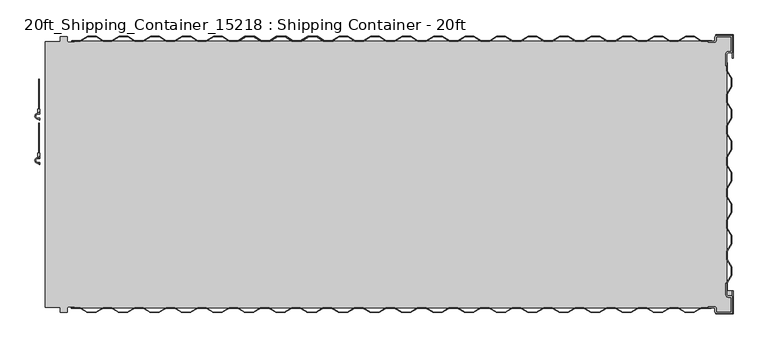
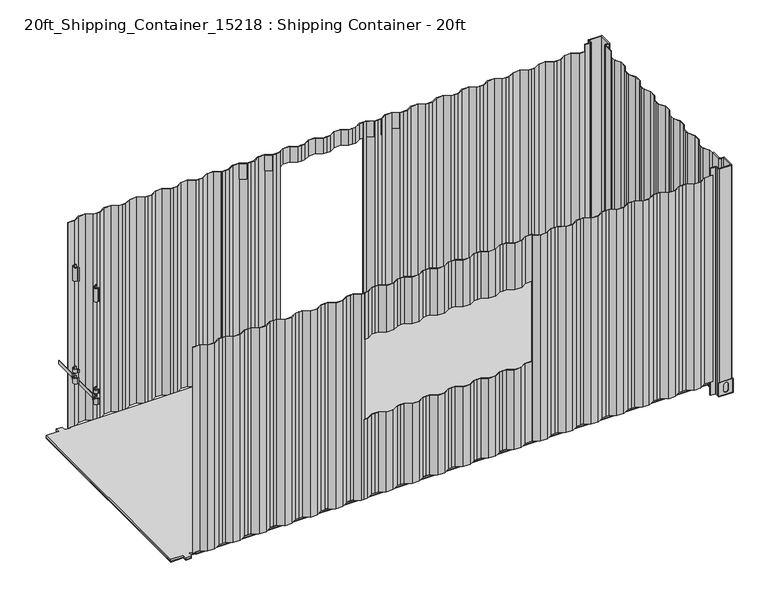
"""IFC4 building model written with IfcOpenShell, lengths in millimetres: proxy geometry, 20ft_Shipping_Container_15218 : Shipping Container - 20ft."""

from ifc_helpers import new_model, si_unit, point, frame, frame_2d, origin, origin_with_axes, place, context, project, spatial, polyline, circle_curve, trimmed, segment, composite_curve, outline, extrude, source, transform, mapped, element, save


def proxy_20ft_shipping_container_15218_shipping_container_20ft_9ec7a6ed(model_context):
    return source(origin(), model_context, "Body", "SweptSolid", [
        extrude(outline(polyline([(-4266.1748613, 1212.85), (-4190.7538505, 1212.85), (-4127.2538505, 1174.6953507), (-4089.1538505, 1174.6953507), (-4053.5938505, 1174.6953507), (-3990.0938505, 1212.85), (-3914.6728396, 1212.85), (-3851.1728396, 1174.6953507), (-3813.0728396, 1174.6953507), (-3777.5128396, 1174.6953507), (-3714.0128396, 1212.85), (-3638.5918288, 1212.85), (-3575.0918288, 1174.6953507), (-3536.9918288, 1174.6953507), (-3502.0668288, 1174.6953507), (-3498.8918288, 1171.5203507), (-3536.9918288, 1171.5203507), (-3575.9723342, 1171.5203507), (-3639.4723342, 1209.675), (-3713.1323342, 1209.675), (-3776.6323342, 1171.5203507), (-3813.0728396, 1171.5203507), (-3852.0533451, 1171.5203507), (-3915.5533451, 1209.675), (-3989.2133451, 1209.675), (-4052.7133451, 1171.5203507), (-4089.1538505, 1171.5203507), (-4128.1343559, 1171.5203507), (-4191.6343559, 1209.675), (-4265.2943559, 1209.675), (-4328.7943559, 1171.5203507), (-4330.4296018, 1174.2418569), (-4266.1748613, 1212.85)])), frame((0.0, 0.0, 161.8703507), z_axis=(0.0, 0.0, 1.0), x_axis=(1.0, 0.0, 0.0)), (0.0, 0.0, 1.0), 2352.7296493),
        extrude(outline(polyline([(-2543.4621629, 1212.85), (-2479.9621629, 1174.6953507), (-2441.8621629, 1174.6953507), (-2406.3021629, 1174.6953507), (-2342.8021629, 1212.85), (-2267.381152, 1212.85), (-2203.881152, 1174.6953507), (-2165.781152, 1174.6953507), (-2130.221152, 1174.6953507), (-2066.721152, 1212.85), (-1991.3001412, 1212.85), (-1927.8001412, 1174.6953507), (-1889.7001412, 1174.6953507), (-1854.1401412, 1174.6953507), (-1790.6401412, 1212.85), (-1715.2191303, 1212.85), (-1651.7191303, 1174.6953507), (-1613.6191303, 1174.6953507), (-1578.0591303, 1174.6953507), (-1514.5591303, 1212.85), (-1439.1381195, 1212.85), (-1375.6381195, 1174.6953507), (-1337.5381195, 1174.6953507), (-1301.9781195, 1174.6953507), (-1238.4781195, 1212.85), (-1236.8428736, 1210.1284938), (-1301.0976141, 1171.5203507), (-1337.5381195, 1171.5203507), (-1376.5186249, 1171.5203507), (-1440.0186249, 1209.675), (-1513.6786249, 1209.675), (-1577.1786249, 1171.5203507), (-1613.6191303, 1171.5203507), (-1652.5996358, 1171.5203507), (-1716.0996358, 1209.675), (-1789.7596358, 1209.675), (-1853.2596358, 1171.5203507), (-1889.7001412, 1171.5203507), (-1928.6806466, 1171.5203507), (-1992.1806466, 1209.675), (-2065.8406466, 1209.675), (-2129.3406466, 1171.5203507), (-2165.781152, 1171.5203507), (-2204.7616575, 1171.5203507), (-2268.2616575, 1209.675), (-2341.9216575, 1209.675), (-2405.4216575, 1171.5203507), (-2441.8621629, 1171.5203507), (-2480.8426683, 1171.5203507), (-2544.3426683, 1209.675), (-2582.8625, 1209.675), (-2582.8625, 1212.85), (-2543.4621629, 1212.85)])), frame((0.0, 0.0, 161.8703507), z_axis=(0.0, 0.0, 1.0), x_axis=(1.0, 0.0, 0.0)), (0.0, 0.0, 1.0), 2352.7296493),
        extrude(outline(polyline([(-2133.6, -1174.6953507), (-2209.8, -1174.6953507), (-2273.3, -1212.85), (-2348.6300591, -1212.85), (-2412.2210109, -1174.6407014), (-2450.3210109, -1174.6407014), (-2485.8810109, -1174.6407014), (-2549.3810109, -1212.7953507), (-2624.8020217, -1212.7953507), (-2688.3020217, -1174.6407014), (-2726.4020217, -1174.6407014), (-2761.9620217, -1174.6407014), (-2825.4620217, -1212.7953507), (-2900.8830326, -1212.7953507), (-2964.3830326, -1174.6407014), (-3002.4830326, -1174.6407014), (-3038.0430326, -1174.6407014), (-3101.5430326, -1212.7953507), (-3176.9640434, -1212.7953507), (-3240.4640434, -1174.6407014), (-3278.5640434, -1174.6407014), (-3314.1240434, -1174.6407014), (-3377.6240434, -1212.7953507), (-3453.0450543, -1212.7953507), (-3516.5450543, -1174.6407014), (-3554.6450543, -1174.6407014), (-3590.2050543, -1174.6407014), (-3653.7050543, -1212.7953507), (-3729.1260651, -1212.7953507), (-3792.6260651, -1174.6407014), (-3830.7260651, -1174.6407014), (-3866.2860651, -1174.6407014), (-3929.542773, -1212.649166), (-3966.6742932, -1212.649166), (-3966.6742932, -1209.6203507), (-3930.6665706, -1209.6203507), (-3867.1665706, -1171.4657014), (-3830.7260651, -1171.4657014), (-3791.7455597, -1171.4657014), (-3728.2455597, -1209.6203507), (-3654.5855597, -1209.6203507), (-3591.0855597, -1171.4657014), (-3554.6450543, -1171.4657014), (-3515.6645488, -1171.4657014), (-3452.1645488, -1209.6203507), (-3378.5045488, -1209.6203507), (-3315.0045488, -1171.4657014), (-3278.5640434, -1171.4657014), (-3239.583538, -1171.4657014), (-3176.083538, -1209.6203507), (-3102.423538, -1209.6203507), (-3038.923538, -1171.4657014), (-3002.4830326, -1171.4657014), (-2963.5025271, -1171.4657014), (-2900.0025271, -1209.6203507), (-2826.3425271, -1209.6203507), (-2762.8425271, -1171.4657014), (-2726.4020217, -1171.4657014), (-2687.4215163, -1171.4657014), (-2623.9215163, -1209.6203507), (-2550.2615163, -1209.6203507), (-2486.7615163, -1171.4657014), (-2450.3210109, -1171.4657014), (-2411.3405054, -1171.4657014), (-2347.7495537, -1209.675), (-2274.1805054, -1209.675), (-2210.6805054, -1171.5203507), (-2133.6, -1171.5203507), (-2133.6, -1174.6953507)])), frame((0.0, 0.0, 161.8703507), z_axis=(0.0, 0.0, 1.0), x_axis=(1.0, 0.0, 0.0)), (0.0, 0.0, 1.0), 911.225),
        extrude(outline(polyline([(-2131.173475, -1174.6953507), (-2207.373475, -1174.6953507), (-2270.873475, -1212.85), (-2346.2035342, -1212.85), (-2409.7944859, -1174.6407014), (-2447.8944859, -1174.6407014), (-2483.4544859, -1174.6407014), (-2546.9544859, -1212.7953507), (-2622.3754967, -1212.7953507), (-2685.8754967, -1174.6407014), (-2723.9754967, -1174.6407014), (-2759.5354967, -1174.6407014), (-2823.0354967, -1212.7953507), (-2898.4565076, -1212.7953507), (-2961.9565076, -1174.6407014), (-3000.0565076, -1174.6407014), (-3035.6165076, -1174.6407014), (-3099.1165076, -1212.7953507), (-3174.5375184, -1212.7953507), (-3238.0375184, -1174.6407014), (-3276.1375184, -1174.6407014), (-3311.6975184, -1174.6407014), (-3375.1975184, -1212.7953507), (-3450.6185293, -1212.7953507), (-3514.1185293, -1174.6407014), (-3552.2185293, -1174.6407014), (-3587.7785293, -1174.6407014), (-3651.2785293, -1212.7953507), (-3726.6995402, -1212.7953507), (-3790.1995402, -1174.6407014), (-3828.2995402, -1174.6407014), (-3863.8595402, -1174.6407014), (-3927.116248, -1212.649166), (-3964.2477682, -1212.649166), (-3964.2477682, -1209.6203507), (-3928.2400456, -1209.6203507), (-3864.7400456, -1171.4657014), (-3828.2995402, -1171.4657014), (-3789.3190347, -1171.4657014), (-3725.8190347, -1209.6203507), (-3652.1590347, -1209.6203507), (-3588.6590347, -1171.4657014), (-3552.2185293, -1171.4657014), (-3513.2380239, -1171.4657014), (-3449.7380239, -1209.6203507), (-3376.0780239, -1209.6203507), (-3312.5780239, -1171.4657014), (-3276.1375184, -1171.4657014), (-3237.157013, -1171.4657014), (-3173.657013, -1209.6203507), (-3099.997013, -1209.6203507), (-3036.497013, -1171.4657014), (-3000.0565076, -1171.4657014), (-2961.0760022, -1171.4657014), (-2897.5760022, -1209.6203507), (-2823.9160022, -1209.6203507), (-2760.4160022, -1171.4657014), (-2723.9754967, -1171.4657014), (-2684.9949913, -1171.4657014), (-2621.4949913, -1209.6203507), (-2547.8349913, -1209.6203507), (-2484.3349913, -1171.4657014), (-2447.8944859, -1171.4657014), (-2408.9139805, -1171.4657014), (-2345.3230287, -1209.675), (-2271.7539805, -1209.675), (-2208.2539805, -1171.5203507), (-2131.173475, -1171.5203507), (-2131.173475, -1174.6953507)])), frame((0.0, 0.0, 1987.4953507), z_axis=(0.0, 0.0, 1.0), x_axis=(1.0, 0.0, 0.0)), (0.0, 0.0, 1.0), 533.4546493),
        extrude(outline(polyline([(-2068.7968589, -1212.7953507), (-2132.2968589, -1174.6407014), (-2135.6757068, -1174.6407014), (-2135.6757068, -1171.4657014), (-2131.4163535, -1171.4657014), (-2067.9163535, -1209.6203507), (-1994.2563535, -1209.6203507), (-1930.7563535, -1171.4657014), (-1891.775848, -1171.4657014), (-1855.3353426, -1171.4657014), (-1791.8353426, -1209.6203507), (-1718.1753426, -1209.6203507), (-1654.6753426, -1171.4657014), (-1615.6948372, -1171.4657014), (-1579.2543318, -1171.4657014), (-1515.7543318, -1209.6203507), (-1442.0943318, -1209.6203507), (-1378.5943318, -1171.4657014), (-1339.6138263, -1171.4657014), (-1303.1733209, -1171.4657014), (-1239.6733209, -1209.6203507), (-1166.0133209, -1209.6203507), (-1102.5133209, -1171.4657014), (-1063.5328155, -1171.4657014), (-1027.09231, -1171.4657014), (-963.59231, -1209.6203507), (-889.93231, -1209.6203507), (-826.43231, -1171.4657014), (-787.4518046, -1171.4657014), (-751.0112992, -1171.4657014), (-687.5112992, -1209.6203507), (-613.8512992, -1209.6203507), (-550.3512992, -1171.4657014), (-511.3707938, -1171.4657014), (-474.9302883, -1171.4657014), (-411.4302883, -1209.6203507), (-337.7702883, -1209.6203507), (-274.2702883, -1171.4657014), (-184.4897829, -1171.4657014), (-184.4897829, -1174.6407014), (-273.3897829, -1174.6407014), (-336.8897829, -1212.7953507), (-412.3107938, -1212.7953507), (-475.8107938, -1174.6407014), (-511.3707938, -1174.6407014), (-549.4707938, -1174.6407014), (-612.9707938, -1212.7953507), (-688.3918046, -1212.7953507), (-751.8918046, -1174.6407014), (-787.4518046, -1174.6407014), (-825.5518046, -1174.6407014), (-889.0518046, -1212.7953507), (-964.4728155, -1212.7953507), (-1027.9728155, -1174.6407014), (-1063.5328155, -1174.6407014), (-1101.6328155, -1174.6407014), (-1165.1328155, -1212.7953507), (-1240.5538263, -1212.7953507), (-1304.0538263, -1174.6407014), (-1339.6138263, -1174.6407014), (-1377.7138263, -1174.6407014), (-1441.2138263, -1212.7953507), (-1516.6348372, -1212.7953507), (-1580.1348372, -1174.6407014), (-1615.6948372, -1174.6407014), (-1653.7948372, -1174.6407014), (-1717.2948372, -1212.7953507), (-1792.715848, -1212.7953507), (-1856.215848, -1174.6407014), (-1891.775848, -1174.6407014), (-1929.875848, -1174.6407014), (-1993.375848, -1212.7953507), (-2068.7968589, -1212.7953507)])), frame((0.0, 0.0, 161.8703507), z_axis=(0.0, 0.0, 1.0), x_axis=(1.0, 0.0, 0.0)), (0.0, 0.0, 1.0), 2352.7296493),
        extrude(outline(polyline([(-5797.55, -1174.6953507), (-5797.55, -1171.5203507), (-5720.4694946, -1171.5203507), (-5656.9694946, -1209.675), (-5583.4004463, -1209.675), (-5519.8094946, -1171.4657014), (-5480.8289891, -1171.4657014), (-5444.3884837, -1171.4657014), (-5380.8884837, -1209.6203507), (-5307.2284837, -1209.6203507), (-5243.7284837, -1171.4657014), (-5204.7479783, -1171.4657014), (-5168.3074729, -1171.4657014), (-5104.8074729, -1209.6203507), (-5031.1474729, -1209.6203507), (-4967.6474729, -1171.4657014), (-4928.6669674, -1171.4657014), (-4892.226462, -1171.4657014), (-4828.726462, -1209.6203507), (-4755.066462, -1209.6203507), (-4691.566462, -1171.4657014), (-4652.5859566, -1171.4657014), (-4616.1454512, -1171.4657014), (-4552.6454512, -1209.6203507), (-4478.9854512, -1209.6203507), (-4415.4854512, -1171.4657014), (-4376.5049457, -1171.4657014), (-4340.0644403, -1171.4657014), (-4276.5644403, -1209.6203507), (-4202.9044403, -1209.6203507), (-4139.4044403, -1171.4657014), (-4100.4239349, -1171.4657014), (-4063.9834294, -1171.4657014), (-4000.4834294, -1209.6203507), (-3964.4757068, -1209.6203507), (-3964.4757068, -1212.7953507), (-4001.3639349, -1212.7953507), (-4064.8639349, -1174.6407014), (-4100.4239349, -1174.6407014), (-4138.5239349, -1174.6407014), (-4202.0239349, -1212.7953507), (-4277.4449457, -1212.7953507), (-4340.9449457, -1174.6407014), (-4376.5049457, -1174.6407014), (-4414.6049457, -1174.6407014), (-4478.1049457, -1212.7953507), (-4553.5259566, -1212.7953507), (-4617.0259566, -1174.6407014), (-4652.5859566, -1174.6407014), (-4690.6859566, -1174.6407014), (-4754.1859566, -1212.7953507), (-4829.6069674, -1212.7953507), (-4893.1069674, -1174.6407014), (-4928.6669674, -1174.6407014), (-4966.7669674, -1174.6407014), (-5030.2669674, -1212.7953507), (-5105.6879783, -1212.7953507), (-5169.1879783, -1174.6407014), (-5204.7479783, -1174.6407014), (-5242.8479783, -1174.6407014), (-5306.3479783, -1212.7953507), (-5381.7689891, -1212.7953507), (-5445.2689891, -1174.6407014), (-5480.8289891, -1174.6407014), (-5518.9289891, -1174.6407014), (-5582.5199409, -1212.85), (-5657.85, -1212.85), (-5721.35, -1174.6953507), (-5797.55, -1174.6953507)])), frame((0.0, 0.0, 161.8703507), z_axis=(0.0, 0.0, 1.0), x_axis=(1.0, 0.0, 0.0)), (0.0, 0.0, 1.0), 2352.7296493),
        extrude(outline(polyline([(-2129.7004794, 1175.1121454), (-2129.7004794, 1171.9371454), (-2206.7809848, 1171.9371454), (-2270.2809848, 1210.0917947), (-2343.8500331, 1210.0917947), (-2407.4409848, 1171.8824961), (-2446.4214902, 1171.8824961), (-2482.8619957, 1171.8824961), (-2546.3619957, 1210.0371454), (-2620.0219957, 1210.0371454), (-2683.5219957, 1171.8824961), (-2722.5025011, 1171.8824961), (-2758.9430065, 1171.8824961), (-2822.4430065, 1210.0371454), (-2896.1030065, 1210.0371454), (-2959.6030065, 1171.8824961), (-2998.5835119, 1171.8824961), (-3035.0240174, 1171.8824961), (-3098.5240174, 1210.0371454), (-3172.1840174, 1210.0371454), (-3235.6840174, 1171.8824961), (-3274.6645228, 1171.8824961), (-3311.1050282, 1171.8824961), (-3374.6050282, 1210.0371454), (-3448.2650282, 1210.0371454), (-3511.7650282, 1171.8824961), (-3550.7455336, 1171.8824961), (-3587.1860391, 1171.8824961), (-3650.6860391, 1210.0371454), (-3724.3460391, 1210.0371454), (-3787.8460391, 1171.8824961), (-3826.8265445, 1171.8824961), (-3863.2670499, 1171.8824961), (-3926.7670499, 1210.0371454), (-3962.7747725, 1210.0371454), (-3962.7747725, 1213.0659608), (-3925.6432524, 1213.0659608), (-3862.3865445, 1175.0574961), (-3826.8265445, 1175.0574961), (-3788.7265445, 1175.0574961), (-3725.2265445, 1213.2121454), (-3649.8055336, 1213.2121454), (-3586.3055336, 1175.0574961), (-3550.7455336, 1175.0574961), (-3512.6455336, 1175.0574961), (-3449.1455336, 1213.2121454), (-3373.7245228, 1213.2121454), (-3310.2245228, 1175.0574961), (-3274.6645228, 1175.0574961), (-3236.5645228, 1175.0574961), (-3173.0645228, 1213.2121454), (-3097.6435119, 1213.2121454), (-3034.1435119, 1175.0574961), (-2998.5835119, 1175.0574961), (-2960.4835119, 1175.0574961), (-2896.9835119, 1213.2121454), (-2821.5625011, 1213.2121454), (-2758.0625011, 1175.0574961), (-2722.5025011, 1175.0574961), (-2684.4025011, 1175.0574961), (-2620.9025011, 1213.2121454), (-2545.4814902, 1213.2121454), (-2481.9814902, 1175.0574961), (-2446.4214902, 1175.0574961), (-2408.3214902, 1175.0574961), (-2344.7305385, 1213.2667947), (-2269.4004794, 1213.2667947), (-2205.9004794, 1175.1121454), (-2129.7004794, 1175.1121454)])), frame((0.0, 0.0, 2336.8), z_axis=(0.0, 0.0, 1.0), x_axis=(1.0, 0.0, 0.0)), (0.0, 0.0, 1.0), 177.8),
        extrude(outline(polyline([(-2066.721152, 1212.85), (-1991.3001412, 1212.85), (-1927.8001412, 1174.6953507), (-1889.7001412, 1174.6953507), (-1854.1401412, 1174.6953507), (-1790.6401412, 1212.85), (-1715.2191303, 1212.85), (-1651.7191303, 1174.6953507), (-1613.6191303, 1174.6953507), (-1578.0591303, 1174.6953507), (-1514.5591303, 1212.85), (-1439.1381195, 1212.85), (-1375.6381195, 1174.6953507), (-1337.5381195, 1174.6953507), (-1301.9781195, 1174.6953507), (-1238.4781195, 1212.85), (-1163.0571086, 1212.85), (-1099.5571086, 1174.6953507), (-1061.4571086, 1174.6953507), (-1025.8971086, 1174.6953507), (-962.3971086, 1212.85), (-886.9760978, 1212.85), (-823.4760978, 1174.6953507), (-785.3760978, 1174.6953507), (-749.8160978, 1174.6953507), (-686.3160978, 1212.85), (-610.8950869, 1212.85), (-547.3950869, 1174.6953507), (-509.2950869, 1174.6953507), (-473.7350869, 1174.6953507), (-410.2350869, 1212.85), (-334.8140761, 1212.85), (-271.3140761, 1174.6953507), (-182.4140761, 1174.6953507), (-182.4140761, 1171.5203507), (-272.1945815, 1171.5203507), (-335.6945815, 1209.675), (-409.3545815, 1209.675), (-472.8545815, 1171.5203507), (-509.2950869, 1171.5203507), (-548.2755923, 1171.5203507), (-611.7755923, 1209.675), (-685.4355923, 1209.675), (-748.9355923, 1171.5203507), (-785.3760978, 1171.5203507), (-824.3566032, 1171.5203507), (-887.8566032, 1209.675), (-961.5166032, 1209.675), (-1025.0166032, 1171.5203507), (-1061.4571086, 1171.5203507), (-1100.4376141, 1171.5203507), (-1163.9376141, 1209.675), (-1237.5976141, 1209.675), (-1301.0976141, 1171.5203507), (-1337.5381195, 1171.5203507), (-1376.5186249, 1171.5203507), (-1440.0186249, 1209.675), (-1513.6786249, 1209.675), (-1577.1786249, 1171.5203507), (-1613.6191303, 1171.5203507), (-1652.5996358, 1171.5203507), (-1716.0996358, 1209.675), (-1789.7596358, 1209.675), (-1853.2596358, 1171.5203507), (-1889.7001412, 1171.5203507), (-1928.6806466, 1171.5203507), (-1992.1806466, 1209.675), (-2065.8406466, 1209.675), (-2129.3406466, 1171.5203507), (-2133.6, 1171.5203507), (-2133.6, 1174.6953507), (-2130.221152, 1174.6953507), (-2066.721152, 1212.85)])), frame((0.0, 0.0, 161.8703507), z_axis=(0.0, 0.0, 1.0), x_axis=(1.0, 0.0, 0.0)), (0.0, 0.0, 1.0), 2352.7296493),
        extrude(outline(polyline([(-5795.4742932, 1174.75), (-5719.2742932, 1174.75), (-5655.7742932, 1212.9046493), (-5580.444234, 1212.9046493), (-5516.8532823, 1174.6953507), (-5478.7532823, 1174.6953507), (-5443.1932823, 1174.6953507), (-5379.6932823, 1212.85), (-5304.2722714, 1212.85), (-5240.7722714, 1174.6953507), (-5202.6722714, 1174.6953507), (-5167.1122714, 1174.6953507), (-5103.6122714, 1212.85), (-5028.1912606, 1212.85), (-4964.6912606, 1174.6953507), (-4926.5912606, 1174.6953507), (-4891.0312606, 1174.6953507), (-4827.5312606, 1212.85), (-4752.1102497, 1212.85), (-4688.6102497, 1174.6953507), (-4650.5102497, 1174.6953507), (-4614.9502497, 1174.6953507), (-4551.4502497, 1212.85), (-4476.0292389, 1212.85), (-4412.5292389, 1174.6953507), (-4374.4292389, 1174.6953507), (-4338.8692389, 1174.6953507), (-4275.3692389, 1212.85), (-4199.948228, 1212.85), (-4136.448228, 1174.6953507), (-4098.348228, 1174.6953507), (-4062.788228, 1174.6953507), (-3999.288228, 1212.85), (-3962.4, 1212.85), (-3962.4, 1209.675), (-3989.2133451, 1209.675), (-4052.7133451, 1171.5203507), (-4098.348228, 1171.5203507), (-4137.3287335, 1171.5203507), (-4200.8287335, 1209.675), (-4274.4887335, 1209.675), (-4337.9887335, 1171.5203507), (-4374.4292389, 1171.5203507), (-4413.4097443, 1171.5203507), (-4476.9097443, 1209.675), (-4550.5697443, 1209.675), (-4614.0697443, 1171.5203507), (-4650.5102497, 1171.5203507), (-4689.4907552, 1171.5203507), (-4752.9907552, 1209.675), (-4826.6507552, 1209.675), (-4890.1507552, 1171.5203507), (-4926.5912606, 1171.5203507), (-4965.571766, 1171.5203507), (-5029.071766, 1209.675), (-5102.731766, 1209.675), (-5166.231766, 1171.5203507), (-5202.6722714, 1171.5203507), (-5241.6527769, 1171.5203507), (-5305.1527769, 1209.675), (-5378.8127769, 1209.675), (-5442.3127769, 1171.5203507), (-5478.7532823, 1171.5203507), (-5517.7337877, 1171.5203507), (-5581.3247395, 1209.7296493), (-5654.8937877, 1209.7296493), (-5718.3937877, 1171.575), (-5795.4742932, 1171.575), (-5795.4742932, 1174.75)])), frame((0.0, 0.0, 161.8703507), z_axis=(0.0, 0.0, 1.0), x_axis=(1.0, 0.0, 0.0)), (0.0, 0.0, 1.0), 2352.7296493),
        extrude(outline(polyline([(6.35, -146.05), (6.35, 0.0), (158.75, 0.0), (158.75, -146.05), (6.35, -146.05)]), holes=[composite_curve([segment(trimmed(circle_curve(frame_2d((110.063327, -69.85)), 25.4), [point((110.063327, -95.25))], [point((110.063327, -44.45))], True, "CARTESIAN"), True, "CONTINUOUS"), segment(polyline([(110.063327, -44.45), (55.036673, -44.45)]), True, "CONTINUOUS"), segment(trimmed(circle_curve(frame_2d((55.036673, -69.85)), 25.4), [point((55.036673, -44.45))], [point((55.036673, -95.25))], True, "CARTESIAN"), True, "CONTINUOUS"), segment(polyline([(55.036673, -95.25), (110.063327, -95.25)]), True, "CONTINUOUS")], self_intersect=False)]), frame((0.0, 1219.2, 0.0), z_axis=(0.0, 1.0, 0.0), x_axis=(0.0, 0.0, 1.0)), (0.0, 0.0, 1.0), 6.35),
        extrude(outline(polyline([(1225.55, 6.35), (1022.35, 6.35), (1022.35, 158.75), (1225.55, 158.75), (1225.55, 6.35)]), holes=[composite_curve([segment(trimmed(circle_curve(frame_2d((1123.95, 110.063327)), 25.4), [point((1149.35, 110.063327))], [point((1098.55, 110.063327))], True, "CARTESIAN"), True, "CONTINUOUS"), segment(polyline([(1098.55, 110.063327), (1098.55, 55.036673)]), True, "CONTINUOUS"), segment(trimmed(circle_curve(frame_2d((1123.95, 55.036673)), 25.4), [point((1098.55, 55.036673))], [point((1149.35, 55.036673))], True, "CARTESIAN"), True, "CONTINUOUS"), segment(polyline([(1149.35, 55.036673), (1149.35, 110.063327)]), True, "CONTINUOUS")], self_intersect=False)]), frame((0.0, 0.0, 0.0), z_axis=(1.0, 0.0, 0.0), x_axis=(0.0, 1.0, 0.0)), (0.0, 0.0, 1.0), 6.35),
        extrude(outline(polyline([(6.35, -146.05), (6.35, 0.0), (158.75, 0.0), (158.75, -146.05), (6.35, -146.05)]), holes=[composite_curve([segment(trimmed(circle_curve(frame_2d((110.063327, -69.85)), 25.4), [point((110.063327, -95.25))], [point((110.063327, -44.45))], True, "CARTESIAN"), True, "CONTINUOUS"), segment(polyline([(110.063327, -44.45), (55.036673, -44.45)]), True, "CONTINUOUS"), segment(trimmed(circle_curve(frame_2d((55.036673, -69.85)), 25.4), [point((55.036673, -44.45))], [point((55.036673, -95.25))], True, "CARTESIAN"), True, "CONTINUOUS"), segment(polyline([(55.036673, -95.25), (110.063327, -95.25)]), True, "CONTINUOUS")], self_intersect=False)]), frame((0.0, 1212.85, 0.0), z_axis=(0.0, 1.0, 0.0), x_axis=(0.0, 0.0, 1.0)), (0.0, 0.0, 1.0), 6.35),
        extrude(outline(polyline([(6.35, -146.05), (6.35, 0.0), (158.75, 0.0), (158.75, -146.05), (6.35, -146.05)]), holes=[composite_curve([segment(trimmed(circle_curve(frame_2d((110.063327, -69.85)), 25.4), [point((110.063327, -95.25))], [point((110.063327, -44.45))], True, "CARTESIAN"), True, "CONTINUOUS"), segment(polyline([(110.063327, -44.45), (55.036673, -44.45)]), True, "CONTINUOUS"), segment(trimmed(circle_curve(frame_2d((55.036673, -69.85)), 25.4), [point((55.036673, -44.45))], [point((55.036673, -95.25))], True, "CARTESIAN"), True, "CONTINUOUS"), segment(polyline([(55.036673, -95.25), (110.063327, -95.25)]), True, "CONTINUOUS")], self_intersect=False)]), frame((0.0, 1219.2, 0.0), z_axis=(0.0, 1.0, 0.0), x_axis=(0.0, 0.0, 1.0)), (0.0, 0.0, 1.0), 6.35),
        extrude(outline(polyline([(1225.55, 6.35), (1022.35, 6.35), (1022.35, 158.75), (1225.55, 158.75), (1225.55, 6.35)]), holes=[composite_curve([segment(trimmed(circle_curve(frame_2d((1123.95, 110.063327)), 25.4), [point((1149.35, 110.063327))], [point((1098.55, 110.063327))], True, "CARTESIAN"), True, "CONTINUOUS"), segment(polyline([(1098.55, 110.063327), (1098.55, 55.036673)]), True, "CONTINUOUS"), segment(trimmed(circle_curve(frame_2d((1123.95, 55.036673)), 25.4), [point((1098.55, 55.036673))], [point((1149.35, 55.036673))], True, "CARTESIAN"), True, "CONTINUOUS"), segment(polyline([(1149.35, 55.036673), (1149.35, 110.063327)]), True, "CONTINUOUS")], self_intersect=False)]), frame((0.0, 0.0, 0.0), z_axis=(1.0, 0.0, 0.0), x_axis=(0.0, 1.0, 0.0)), (0.0, 0.0, 1.0), 6.35),
        extrude(outline(polyline([(6.35, -1225.55), (-146.05, -1225.55), (-146.05, -1022.35), (6.35, -1022.35), (6.35, -1225.55)]), holes=[composite_curve([segment(polyline([(-44.45, -1151.463327), (-44.45, -1096.436673)]), True, "CONTINUOUS"), segment(trimmed(circle_curve(frame_2d((-69.85, -1096.436673)), 25.4), [point((-44.45, -1096.436673))], [point((-95.25, -1096.436673))], True, "CARTESIAN"), True, "CONTINUOUS"), segment(polyline([(-95.25, -1096.436673), (-95.25, -1151.463327)]), True, "CONTINUOUS"), segment(trimmed(circle_curve(frame_2d((-69.85, -1151.463327)), 25.4), [point((-95.25, -1151.463327))], [point((-44.45, -1151.463327))], True, "CARTESIAN"), True, "CONTINUOUS")], self_intersect=False)]), origin_with_axes(), (0.0, 0.0, 1.0), 6.35),
        extrude(outline(polyline([(6.35, -146.05), (6.35, 0.0), (158.75, 0.0), (158.75, -146.05), (6.35, -146.05)]), holes=[composite_curve([segment(trimmed(circle_curve(frame_2d((110.063327, -69.85)), 25.4), [point((110.063327, -95.25))], [point((110.063327, -44.45))], True, "CARTESIAN"), True, "CONTINUOUS"), segment(polyline([(110.063327, -44.45), (55.036673, -44.45)]), True, "CONTINUOUS"), segment(trimmed(circle_curve(frame_2d((55.036673, -69.85)), 25.4), [point((55.036673, -44.45))], [point((55.036673, -95.25))], True, "CARTESIAN"), True, "CONTINUOUS"), segment(polyline([(55.036673, -95.25), (110.063327, -95.25)]), True, "CONTINUOUS")], self_intersect=False)]), frame((0.0, 1212.85, 0.0), z_axis=(0.0, 1.0, 0.0), x_axis=(0.0, 0.0, 1.0)), (0.0, 0.0, 1.0), 6.35),
        extrude(outline(composite_curve([segment(polyline([(-57.15, -955.8240193), (-47.625, -955.8240193), (-47.625, -1055.7140457)]), True, "CONTINUOUS"), segment(trimmed(circle_curve(frame_2d((-34.925, -1055.7140457)), 12.7), [point((-47.625, -1055.7140457))], [point((-34.925, -1068.4140457))], True, "CARTESIAN"), True, "CONTINUOUS"), segment(polyline([(-34.925, -1068.4140457), (-6.35, -1068.4140457)]), True, "CONTINUOUS"), segment(trimmed(circle_curve(frame_2d((-6.35, -1074.7640457)), 6.35), [point((-6.35, -1068.4140457))], [point((0.0, -1074.7640457))], False, "CARTESIAN"), True, "CONTINUOUS"), segment(polyline([(0.0, -1074.7640457), (0.0, -1212.85)]), True, "CONTINUOUS"), segment(trimmed(circle_curve(frame_2d((-6.35, -1212.85)), 6.35), [point((0.0, -1212.85))], [point((-6.35, -1219.2))], False, "CARTESIAN"), True, "CONTINUOUS"), segment(polyline([(-6.35, -1219.2), (-139.7, -1219.2)]), True, "CONTINUOUS"), segment(trimmed(circle_curve(frame_2d((-139.7, -1206.5)), 12.7), [point((-139.7, -1219.2))], [point((-152.4, -1206.5))], False, "CARTESIAN"), True, "CONTINUOUS"), segment(polyline([(-152.4, -1206.5), (-152.4, -1174.75)]), True, "CONTINUOUS"), segment(trimmed(circle_curve(frame_2d((-155.575, -1174.75)), 3.175), [point((-152.4, -1174.75))], [point((-155.575, -1171.575))], True, "CARTESIAN"), True, "CONTINUOUS"), segment(polyline([(-155.575, -1171.575), (-209.55, -1171.575), (-209.55, -1162.05), (-155.575, -1162.05)]), True, "CONTINUOUS"), segment(trimmed(circle_curve(frame_2d((-155.575, -1174.75)), 12.7), [point((-155.575, -1162.05))], [point((-142.875, -1174.75))], False, "CARTESIAN"), True, "CONTINUOUS"), segment(polyline([(-142.875, -1174.75), (-142.875, -1206.5)]), True, "CONTINUOUS"), segment(trimmed(circle_curve(frame_2d((-139.7, -1206.5)), 3.175), [point((-142.875, -1206.5))], [point((-139.7, -1209.675))], True, "CARTESIAN"), True, "CONTINUOUS"), segment(polyline([(-139.7, -1209.675), (-9.525, -1209.675), (-9.525, -1077.9390457), (-34.925, -1077.9390457)]), True, "CONTINUOUS"), segment(trimmed(circle_curve(frame_2d((-34.925, -1055.7140457)), 22.225), [point((-34.925, -1077.9390457))], [point((-57.15, -1055.7140457))], False, "CARTESIAN"), True, "CONTINUOUS"), segment(polyline([(-57.15, -1055.7140457), (-57.15, -955.8240193)]), True, "CONTINUOUS")], self_intersect=False)), frame((0.0, 0.0, 6.35), z_axis=(0.0, 0.0, 1.0), x_axis=(1.0, 0.0, 0.0)), (0.0, 0.0, 1.0), 2590.8),
        extrude(outline(polyline([(6.35, -146.05), (6.35, 0.0), (158.75, 0.0), (158.75, -146.05), (6.35, -146.05)]), holes=[composite_curve([segment(trimmed(circle_curve(frame_2d((110.063327, -69.85)), 25.4), [point((110.063327, -95.25))], [point((110.063327, -44.45))], True, "CARTESIAN"), True, "CONTINUOUS"), segment(polyline([(110.063327, -44.45), (55.036673, -44.45)]), True, "CONTINUOUS"), segment(trimmed(circle_curve(frame_2d((55.036673, -69.85)), 25.4), [point((55.036673, -44.45))], [point((55.036673, -95.25))], True, "CARTESIAN"), True, "CONTINUOUS"), segment(polyline([(55.036673, -95.25), (110.063327, -95.25)]), True, "CONTINUOUS")], self_intersect=False)]), frame((0.0, -1225.55, 0.0), z_axis=(0.0, 1.0, 0.0), x_axis=(0.0, 0.0, 1.0)), (0.0, 0.0, 1.0), 6.35),
        extrude(outline(polyline([(-1225.55, 6.35), (-1225.55, 158.75), (-1022.35, 158.75), (-1022.35, 6.35), (-1225.55, 6.35)]), holes=[composite_curve([segment(polyline([(-1149.35, 110.063327), (-1149.35, 55.036673)]), True, "CONTINUOUS"), segment(trimmed(circle_curve(frame_2d((-1123.95, 55.036673)), 25.4), [point((-1149.35, 55.036673))], [point((-1098.55, 55.036673))], True, "CARTESIAN"), True, "CONTINUOUS"), segment(polyline([(-1098.55, 55.036673), (-1098.55, 110.063327)]), True, "CONTINUOUS"), segment(trimmed(circle_curve(frame_2d((-1123.95, 110.063327)), 25.4), [point((-1098.55, 110.063327))], [point((-1149.35, 110.063327))], True, "CARTESIAN"), True, "CONTINUOUS")], self_intersect=False)]), frame((0.0, 0.0, 0.0), z_axis=(1.0, 0.0, 0.0), x_axis=(0.0, 1.0, 0.0)), (0.0, 0.0, 1.0), 6.35),
        extrude(outline(polyline([(6.35, -146.05), (6.35, 0.0), (158.75, 0.0), (158.75, -146.05), (6.35, -146.05)]), holes=[composite_curve([segment(trimmed(circle_curve(frame_2d((110.063327, -69.85)), 25.4), [point((110.063327, -95.25))], [point((110.063327, -44.45))], True, "CARTESIAN"), True, "CONTINUOUS"), segment(polyline([(110.063327, -44.45), (55.036673, -44.45)]), True, "CONTINUOUS"), segment(trimmed(circle_curve(frame_2d((55.036673, -69.85)), 25.4), [point((55.036673, -44.45))], [point((55.036673, -95.25))], True, "CARTESIAN"), True, "CONTINUOUS"), segment(polyline([(55.036673, -95.25), (110.063327, -95.25)]), True, "CONTINUOUS")], self_intersect=False)]), frame((0.0, -1219.2, 0.0), z_axis=(0.0, 1.0, 0.0), x_axis=(0.0, 0.0, 1.0)), (0.0, 0.0, 1.0), 6.35),
        extrude(outline(polyline([(-47.6796493, 981.3893083), (-44.5046493, 981.3893083), (-44.5046493, 943.2893083), (-44.5046493, 907.7293083), (-6.35, 844.2293083), (-6.35, 768.8082974), (-44.5046493, 705.3082974), (-44.5046493, 667.2082974), (-44.5046493, 631.6482974), (-6.35, 568.1482974), (-6.35, 492.7272866), (-44.5046493, 429.2272866), (-44.5046493, 391.1272866), (-44.5046493, 355.5672866), (-6.35, 292.0672866), (-6.35, 216.6462757), (-44.5046493, 153.1462757), (-44.5046493, 115.0462757), (-44.5046493, 79.4862757), (-6.35, 15.9862757), (-6.35, -59.4347351), (-44.5046493, -122.9347351), (-44.5046493, -161.0347351), (-44.5046493, -196.5947351), (-6.35, -260.0947351), (-6.35, -335.515746), (-44.5046493, -399.015746), (-44.5046493, -437.115746), (-44.5046493, -472.675746), (-6.35, -536.175746), (-6.35, -611.5967568), (-44.5046493, -675.0967568), (-44.5046493, -713.1967568), (-44.5046493, -748.7567568), (-6.35, -812.2567568), (-6.35, -887.6777677), (-44.5046493, -951.1777677), (-44.5046493, -989.2777677), (-44.5046493, -1024.8377677), (-47.6796493, -1024.8377677), (-47.6796493, -989.2777677), (-47.6796493, -950.2972623), (-9.525, -886.7972623), (-9.525, -813.1372623), (-47.6796493, -749.6372623), (-47.6796493, -713.1967568), (-47.6796493, -674.2162514), (-9.525, -610.7162514), (-9.525, -537.0562514), (-47.6796493, -473.5562514), (-47.6796493, -437.115746), (-47.6796493, -398.1352406), (-9.525, -334.6352406), (-9.525, -260.9752406), (-47.6796493, -197.4752406), (-47.6796493, -161.0347351), (-47.6796493, -122.0542297), (-9.525, -58.5542297), (-9.525, 15.1057703), (-47.6796493, 78.6057703), (-47.6796493, 115.0462757), (-47.6796493, 154.0267811), (-9.525, 217.5267811), (-9.525, 291.1867811), (-47.6796493, 354.6867811), (-47.6796493, 391.1272866), (-47.6796493, 430.107792), (-9.525, 493.607792), (-9.525, 567.267792), (-47.6796493, 630.767792), (-47.6796493, 667.2082974), (-47.6796493, 706.1888029), (-9.525, 769.6888029), (-9.525, 843.3488029), (-47.6796493, 906.8488029), (-47.6796493, 943.2893083), (-47.6796493, 981.3893083)])), frame((0.0, 0.0, 168.2203507), z_axis=(0.0, 0.0, 1.0), x_axis=(1.0, 0.0, 0.0)), (0.0, 0.0, 1.0), 2352.7296493),
        extrude(outline(composite_curve([segment(polyline([(-57.15, 955.8240193), (-57.15, 1055.7140457)]), True, "CONTINUOUS"), segment(trimmed(circle_curve(frame_2d((-34.925, 1055.7140457)), 22.225), [point((-57.15, 1055.7140457))], [point((-34.925, 1077.9390457))], False, "CARTESIAN"), True, "CONTINUOUS"), segment(polyline([(-34.925, 1077.9390457), (-9.525, 1077.9390457), (-9.525, 1209.675), (-139.7, 1209.675)]), True, "CONTINUOUS"), segment(trimmed(circle_curve(frame_2d((-139.7, 1206.5)), 3.175), [point((-139.7, 1209.675))], [point((-142.875, 1206.5))], True, "CARTESIAN"), True, "CONTINUOUS"), segment(polyline([(-142.875, 1206.5), (-142.875, 1174.75)]), True, "CONTINUOUS"), segment(trimmed(circle_curve(frame_2d((-155.575, 1174.75)), 12.7), [point((-142.875, 1174.75))], [point((-155.575, 1162.05))], False, "CARTESIAN"), True, "CONTINUOUS"), segment(polyline([(-155.575, 1162.05), (-209.55, 1162.05), (-209.55, 1171.575), (-155.575, 1171.575)]), True, "CONTINUOUS"), segment(trimmed(circle_curve(frame_2d((-155.575, 1174.75)), 3.175), [point((-155.575, 1171.575))], [point((-152.4, 1174.75))], True, "CARTESIAN"), True, "CONTINUOUS"), segment(polyline([(-152.4, 1174.75), (-152.4, 1206.5)]), True, "CONTINUOUS"), segment(trimmed(circle_curve(frame_2d((-139.7, 1206.5)), 12.7), [point((-152.4, 1206.5))], [point((-139.7, 1219.2))], False, "CARTESIAN"), True, "CONTINUOUS"), segment(polyline([(-139.7, 1219.2), (-6.35, 1219.2)]), True, "CONTINUOUS"), segment(trimmed(circle_curve(frame_2d((-6.35, 1212.85)), 6.35), [point((-6.35, 1219.2))], [point((0.0, 1212.85))], False, "CARTESIAN"), True, "CONTINUOUS"), segment(polyline([(0.0, 1212.85), (0.0, 1074.7640457)]), True, "CONTINUOUS"), segment(trimmed(circle_curve(frame_2d((-6.35, 1074.7640457)), 6.35), [point((0.0, 1074.7640457))], [point((-6.35, 1068.4140457))], False, "CARTESIAN"), True, "CONTINUOUS"), segment(polyline([(-6.35, 1068.4140457), (-34.925, 1068.4140457)]), True, "CONTINUOUS"), segment(trimmed(circle_curve(frame_2d((-34.925, 1055.7140457)), 12.7), [point((-34.925, 1068.4140457))], [point((-47.625, 1055.7140457))], True, "CARTESIAN"), True, "CONTINUOUS"), segment(polyline([(-47.625, 1055.7140457), (-47.625, 955.8240193), (-57.15, 955.8240193)]), True, "CONTINUOUS")], self_intersect=False)), frame((0.0, 0.0, 6.35), z_axis=(0.0, 0.0, 1.0), x_axis=(1.0, 0.0, 0.0)), (0.0, 0.0, 1.0), 2590.8),
        extrude(outline(composite_curve([segment(polyline([(-209.1872806, -1162.05), (-209.1872806, -1171.575), (-5767.3787175, -1171.575), (-5767.3787175, -1162.05), (-5821.3537175, -1162.05)]), True, "CONTINUOUS"), segment(trimmed(circle_curve(frame_2d((-5821.3537175, -1174.75)), 12.7), [point((-5821.3537175, -1162.05))], [point((-5834.0537175, -1174.75))], True, "CARTESIAN"), True, "CONTINUOUS"), segment(polyline([(-5834.0537175, -1174.75), (-5834.0537175, -1206.5)]), True, "CONTINUOUS"), segment(trimmed(circle_curve(frame_2d((-5837.2287175, -1206.5)), 3.175), [point((-5834.0537175, -1206.5))], [point((-5837.2287175, -1209.675))], False, "CARTESIAN"), True, "CONTINUOUS"), segment(polyline([(-5837.2287175, -1209.675), (-5895.975, -1209.675), (-5895.975, -1165.225), (-6029.325, -1165.225), (-6029.325, 1165.225), (-5895.975, 1165.225), (-5895.975, 1209.675), (-5834.0537175, 1209.675), (-5834.0537175, 1174.75)]), True, "CONTINUOUS"), segment(trimmed(circle_curve(frame_2d((-5821.3537175, 1174.75)), 12.7), [point((-5834.0537175, 1174.75))], [point((-5821.3537175, 1162.05))], True, "CARTESIAN"), True, "CONTINUOUS"), segment(polyline([(-5821.3537175, 1162.05), (-5767.3787175, 1162.05), (-5767.3787175, 1171.575), (-209.55, 1171.575), (-209.55, 1162.05), (-155.575, 1162.05)]), True, "CONTINUOUS"), segment(trimmed(circle_curve(frame_2d((-155.575, 1174.75)), 12.7), [point((-155.575, 1162.05))], [point((-142.875, 1174.75))], True, "CARTESIAN"), True, "CONTINUOUS"), segment(polyline([(-142.875, 1174.75), (-142.875, 1206.5)]), True, "CONTINUOUS"), segment(trimmed(circle_curve(frame_2d((-139.7, 1206.5)), 3.175), [point((-142.875, 1206.5))], [point((-139.7, 1209.675))], False, "CARTESIAN"), True, "CONTINUOUS"), segment(polyline([(-139.7, 1209.675), (-9.525, 1209.675), (-9.525, 1077.9390457), (-34.925, 1077.9390457)]), True, "CONTINUOUS"), segment(trimmed(circle_curve(frame_2d((-34.925, 1055.7140457)), 22.225), [point((-34.925, 1077.9390457))], [point((-57.15, 1055.7140457))], True, "CARTESIAN"), True, "CONTINUOUS"), segment(polyline([(-57.15, 1055.7140457), (-57.15, 955.3797059), (-47.6796493, 955.3797059), (-47.6796493, -955.8240193), (-57.15, -955.8240193), (-57.15, -1055.7140457)]), True, "CONTINUOUS"), segment(trimmed(circle_curve(frame_2d((-34.925, -1055.7140457)), 22.225), [point((-57.15, -1055.7140457))], [point((-34.925, -1077.9390457))], True, "CARTESIAN"), True, "CONTINUOUS"), segment(polyline([(-34.925, -1077.9390457), (-9.525, -1077.9390457), (-9.525, -1209.675), (-139.7, -1209.675)]), True, "CONTINUOUS"), segment(trimmed(circle_curve(frame_2d((-139.7, -1206.5)), 3.175), [point((-139.7, -1209.675))], [point((-142.875, -1206.5))], False, "CARTESIAN"), True, "CONTINUOUS"), segment(polyline([(-142.875, -1206.5), (-142.875, -1174.75)]), True, "CONTINUOUS"), segment(trimmed(circle_curve(frame_2d((-155.575, -1174.75)), 12.7), [point((-142.875, -1174.75))], [point((-155.575, -1162.05))], True, "CARTESIAN"), True, "CONTINUOUS"), segment(polyline([(-155.575, -1162.05), (-209.1872806, -1162.05)]), True, "CONTINUOUS")], self_intersect=False)), frame((0.0, 0.0, 136.525), z_axis=(0.0, 0.0, 1.0), x_axis=(1.0, 0.0, 0.0)), (0.0, 0.0, 1.0), 6.35),
        extrude(outline(composite_curve([segment(polyline([(-209.1872806, -1162.05), (-209.1872806, -1171.575), (-5767.3787175, -1171.575), (-5767.3787175, -1162.05), (-5821.3537175, -1162.05)]), True, "CONTINUOUS"), segment(trimmed(circle_curve(frame_2d((-5821.3537175, -1174.75)), 12.7), [point((-5821.3537175, -1162.05))], [point((-5834.0537175, -1174.75))], True, "CARTESIAN"), True, "CONTINUOUS"), segment(polyline([(-5834.0537175, -1174.75), (-5834.0537175, -1206.5)]), True, "CONTINUOUS"), segment(trimmed(circle_curve(frame_2d((-5837.2287175, -1206.5)), 3.175), [point((-5834.0537175, -1206.5))], [point((-5837.2287175, -1209.675))], False, "CARTESIAN"), True, "CONTINUOUS"), segment(polyline([(-5837.2287175, -1209.675), (-5895.975, -1209.675), (-5895.975, -1165.225), (-6029.325, -1165.225), (-6029.325, 1165.225), (-5895.975, 1165.225), (-5895.975, 1209.675), (-5834.0537175, 1209.675), (-5834.0537175, 1174.75)]), True, "CONTINUOUS"), segment(trimmed(circle_curve(frame_2d((-5821.3537175, 1174.75)), 12.7), [point((-5834.0537175, 1174.75))], [point((-5821.3537175, 1162.05))], True, "CARTESIAN"), True, "CONTINUOUS"), segment(polyline([(-5821.3537175, 1162.05), (-5767.3787175, 1162.05), (-5767.3787175, 1171.575), (-209.55, 1171.575), (-209.55, 1162.4943134), (-155.575, 1162.4943134)]), True, "CONTINUOUS"), segment(trimmed(circle_curve(frame_2d((-155.575, 1175.1943134)), 12.7), [point((-155.575, 1162.4943134))], [point((-142.875, 1175.1943134))], True, "CARTESIAN"), True, "CONTINUOUS"), segment(polyline([(-142.875, 1175.1943134), (-142.875, 1206.9443134)]), True, "CONTINUOUS"), segment(trimmed(circle_curve(frame_2d((-139.7, 1206.9443134)), 3.175), [point((-142.875, 1206.9443134))], [point((-139.7, 1210.1193134))], False, "CARTESIAN"), True, "CONTINUOUS"), segment(polyline([(-139.7, 1210.1193134), (-9.525, 1210.1193134), (-9.525, 1078.383359), (-34.925, 1078.383359)]), True, "CONTINUOUS"), segment(trimmed(circle_curve(frame_2d((-34.925, 1056.158359)), 22.225), [point((-34.925, 1078.383359))], [point((-57.15, 1056.158359))], True, "CARTESIAN"), True, "CONTINUOUS"), segment(polyline([(-57.15, 1056.158359), (-57.15, 955.8240193), (-47.6796493, 955.8240193), (-47.6796493, -955.8240193), (-57.15, -955.8240193), (-57.15, -1055.7140457)]), True, "CONTINUOUS"), segment(trimmed(circle_curve(frame_2d((-34.925, -1055.7140457)), 22.225), [point((-57.15, -1055.7140457))], [point((-34.925, -1077.9390457))], True, "CARTESIAN"), True, "CONTINUOUS"), segment(polyline([(-34.925, -1077.9390457), (-9.525, -1077.9390457), (-9.525, -1209.675), (-139.7, -1209.675)]), True, "CONTINUOUS"), segment(trimmed(circle_curve(frame_2d((-139.7, -1206.5)), 3.175), [point((-139.7, -1209.675))], [point((-142.875, -1206.5))], False, "CARTESIAN"), True, "CONTINUOUS"), segment(polyline([(-142.875, -1206.5), (-142.875, -1174.75)]), True, "CONTINUOUS"), segment(trimmed(circle_curve(frame_2d((-155.575, -1174.75)), 12.7), [point((-142.875, -1174.75))], [point((-155.575, -1162.05))], True, "CARTESIAN"), True, "CONTINUOUS"), segment(polyline([(-155.575, -1162.05), (-209.1872806, -1162.05)]), True, "CONTINUOUS")], self_intersect=False)), frame((0.0, 0.0, 142.875), z_axis=(0.0, 0.0, 1.0), x_axis=(1.0, 0.0, 0.0)), (0.0, 0.0, 1.0), 25.3453507),
        extrude(outline(polyline([(-6080.125, 147.9892485), (-6086.6174273, 147.9892485), (-6086.6174273, 449.0870422), (-6080.125, 449.0870422), (-6080.125, 147.9892485)])), frame((0.0, 0.0, 1206.5), z_axis=(0.0, 0.0, 1.0), x_axis=(1.0, 0.0, 0.0)), (0.0, 0.0, 1.0), 38.1),
        extrude(outline(polyline([(-6080.125, 536.5746007), (-6086.6174273, 536.5746007), (-6086.6174273, 837.6723944), (-6080.125, 837.6723944), (-6080.125, 536.5746007)])), frame((0.0, 0.0, 1206.5), z_axis=(0.0, 0.0, 1.0), x_axis=(1.0, 0.0, 0.0)), (0.0, 0.0, 1.0), 38.1),
        extrude(outline(composite_curve([segment(polyline([(-6089.0024525, 103.9271016), (-6073.775, 103.9271016), (-6073.775, 97.5771016), (-6088.4054375, 97.5771016)]), True, "CONTINUOUS"), segment(trimmed(circle_curve(frame_2d((-6092.825, 122.5896478)), 25.4), [point((-6088.4054375, 97.5771016))], [point((-6092.9674273, 147.9892485))], False, "CARTESIAN"), True, "CONTINUOUS"), segment(polyline([(-6092.9674273, 147.9892485), (-6092.9674273, 186.0900472), (-6086.6174273, 186.0900472), (-6086.6174273, 147.9892485), (-6080.125, 147.9892485), (-6080.125, 186.0900472), (-6073.775, 186.0900472), (-6073.775, 141.6392485), (-6092.9483455, 141.6392485)]), True, "CONTINUOUS"), segment(trimmed(circle_curve(frame_2d((-6092.825, 122.5896478)), 19.05), [point((-6092.9483455, 141.6392485))], [point((-6089.0024525, 103.9271016))], True, "CARTESIAN"), True, "CONTINUOUS")], self_intersect=False)), frame((0.0, 0.0, 1193.8), z_axis=(0.0, 0.0, 1.0), x_axis=(1.0, 0.0, 0.0)), (0.0, 0.0, 1.0), 63.5),
        extrude(outline(composite_curve([segment(polyline([(-6089.0024525, 492.5124538), (-6073.775, 492.5124538), (-6073.775, 486.1624538), (-6088.4054375, 486.1624538)]), True, "CONTINUOUS"), segment(trimmed(circle_curve(frame_2d((-6092.825, 511.175)), 25.4), [point((-6088.4054375, 486.1624538))], [point((-6092.9674273, 536.5746007))], False, "CARTESIAN"), True, "CONTINUOUS"), segment(polyline([(-6092.9674273, 536.5746007), (-6092.9674273, 574.6753993), (-6086.6174273, 574.6753993), (-6086.6174273, 536.5746007), (-6080.125, 536.5746007), (-6080.125, 574.6753993), (-6073.775, 574.6753993), (-6073.775, 530.2246007), (-6092.9483455, 530.2246007)]), True, "CONTINUOUS"), segment(trimmed(circle_curve(frame_2d((-6092.825, 511.175)), 19.05), [point((-6092.9483455, 530.2246007))], [point((-6089.0024525, 492.5124538))], True, "CARTESIAN"), True, "CONTINUOUS")], self_intersect=False)), frame((0.0, 0.0, 1193.8), z_axis=(0.0, 0.0, 1.0), x_axis=(1.0, 0.0, 0.0)), (0.0, 0.0, 1.0), 63.5),
        extrude(outline(composite_curve([segment(polyline([(-6089.0024525, 492.5124538), (-6073.775, 492.5124538), (-6073.775, 476.6374538), (-6080.125, 476.6374538), (-6080.125, 486.1624538), (-6088.4054375, 486.1624538)]), True, "CONTINUOUS"), segment(trimmed(circle_curve(frame_2d((-6092.825, 511.175)), 25.4), [point((-6088.4054375, 486.1624538))], [point((-6092.9674273, 536.5746007))], False, "CARTESIAN"), True, "CONTINUOUS"), segment(polyline([(-6092.9674273, 536.5746007), (-6080.125, 536.5746007), (-6080.125, 546.1), (-6073.775, 546.1), (-6073.775, 530.2246007), (-6092.9483455, 530.2246007)]), True, "CONTINUOUS"), segment(trimmed(circle_curve(frame_2d((-6092.825, 511.175)), 19.05), [point((-6092.9483455, 530.2246007))], [point((-6089.0024525, 492.5124538))], True, "CARTESIAN"), True, "CONTINUOUS")], self_intersect=False)), frame((0.0, 0.0, 1320.8), z_axis=(0.0, 0.0, 1.0), x_axis=(1.0, 0.0, 0.0)), (0.0, 0.0, 1.0), 38.1),
        extrude(outline(composite_curve([segment(polyline([(-6089.0024525, 103.9271016), (-6073.775, 103.9271016), (-6073.775, 88.0521016), (-6080.125, 88.0521016), (-6080.125, 97.5771016), (-6088.4054375, 97.5771016)]), True, "CONTINUOUS"), segment(trimmed(circle_curve(frame_2d((-6092.825, 122.5896478)), 25.4), [point((-6088.4054375, 97.5771016))], [point((-6092.9674273, 147.9892485))], False, "CARTESIAN"), True, "CONTINUOUS"), segment(polyline([(-6092.9674273, 147.9892485), (-6080.125, 147.9892485), (-6080.125, 157.5146478), (-6073.775, 157.5146478), (-6073.775, 141.6392485), (-6092.9483455, 141.6392485)]), True, "CONTINUOUS"), segment(trimmed(circle_curve(frame_2d((-6092.825, 122.5896478)), 19.05), [point((-6092.9483455, 141.6392485))], [point((-6089.0024525, 103.9271016))], True, "CARTESIAN"), True, "CONTINUOUS")], self_intersect=False)), frame((0.0, 0.0, 1320.8), z_axis=(0.0, 0.0, 1.0), x_axis=(1.0, 0.0, 0.0)), (0.0, 0.0, 1.0), 38.1),
        extrude(outline(composite_curve([segment(polyline([(-6089.0024525, 492.5124538), (-6073.775, 492.5124538), (-6073.775, 476.6374538), (-6080.125, 476.6374538), (-6080.125, 486.1624538), (-6088.4054375, 486.1624538)]), True, "CONTINUOUS"), segment(trimmed(circle_curve(frame_2d((-6092.825, 511.175)), 25.4), [point((-6088.4054375, 486.1624538))], [point((-6092.9674273, 536.5746007))], False, "CARTESIAN"), True, "CONTINUOUS"), segment(polyline([(-6092.9674273, 536.5746007), (-6080.125, 536.5746007), (-6080.125, 546.1), (-6073.775, 546.1), (-6073.775, 530.2246007), (-6092.9483455, 530.2246007)]), True, "CONTINUOUS"), segment(trimmed(circle_curve(frame_2d((-6092.825, 511.175)), 19.05), [point((-6092.9483455, 530.2246007))], [point((-6089.0024525, 492.5124538))], True, "CARTESIAN"), True, "CONTINUOUS")], self_intersect=False)), frame((0.0, 0.0, 2368.55), z_axis=(0.0, 0.0, 1.0), x_axis=(1.0, 0.0, 0.0)), (0.0, 0.0, 1.0), 152.4),
        extrude(outline(composite_curve([segment(polyline([(-6089.0024525, 103.9271016), (-6073.775, 103.9271016), (-6073.775, 88.0521016), (-6080.125, 88.0521016), (-6080.125, 97.5771016), (-6088.4054375, 97.5771016)]), True, "CONTINUOUS"), segment(trimmed(circle_curve(frame_2d((-6092.825, 122.5896478)), 25.4), [point((-6088.4054375, 97.5771016))], [point((-6092.9674273, 147.9892485))], False, "CARTESIAN"), True, "CONTINUOUS"), segment(polyline([(-6092.9674273, 147.9892485), (-6080.125, 147.9892485), (-6080.125, 157.5146478), (-6073.775, 157.5146478), (-6073.775, 141.6392485), (-6092.9483455, 141.6392485)]), True, "CONTINUOUS"), segment(trimmed(circle_curve(frame_2d((-6092.825, 122.5896478)), 19.05), [point((-6092.9483455, 141.6392485))], [point((-6089.0024525, 103.9271016))], True, "CARTESIAN"), True, "CONTINUOUS")], self_intersect=False)), frame((0.0, 0.0, 2368.55), z_axis=(0.0, 0.0, 1.0), x_axis=(1.0, 0.0, 0.0)), (0.0, 0.0, 1.0), 152.4),
    ])


if __name__ == "__main__":
    model = new_model("IFC4")
    model_context = context("Model", 3, world=origin())
    ifc_project = project(units=[si_unit("LENGTHUNIT", "METRE", prefix="MILLI")], contexts=[model_context])
    site = spatial("IfcSite", under=ifc_project)
    building = spatial("IfcBuilding", under=site)
    placement = place(None, origin())
    proxy_20ft_shipping_container_15218_shipping_container_20ft_shape = proxy_20ft_shipping_container_15218_shipping_container_20ft_9ec7a6ed(model_context)
    element("IfcBuildingElementProxy", 1, Name="20ft_Shipping_Container_15218 : Shipping Container - 20ft", ObjectType="20ft_Shipping_Container_15218 : Shipping Container - 20ft", at=placement, inside=building, context=model_context, shape_type="MappedRepresentation", body=[
        mapped(proxy_20ft_shipping_container_15218_shipping_container_20ft_shape, transform((0.0, 0.0, 0.0), x_axis=(1.0, 0.0, 0.0), y_axis=(0.0, 1.0, 0.0), z_axis=(0.0, 0.0, 1.0))),
    ])
    save(model, "model.ifc")
